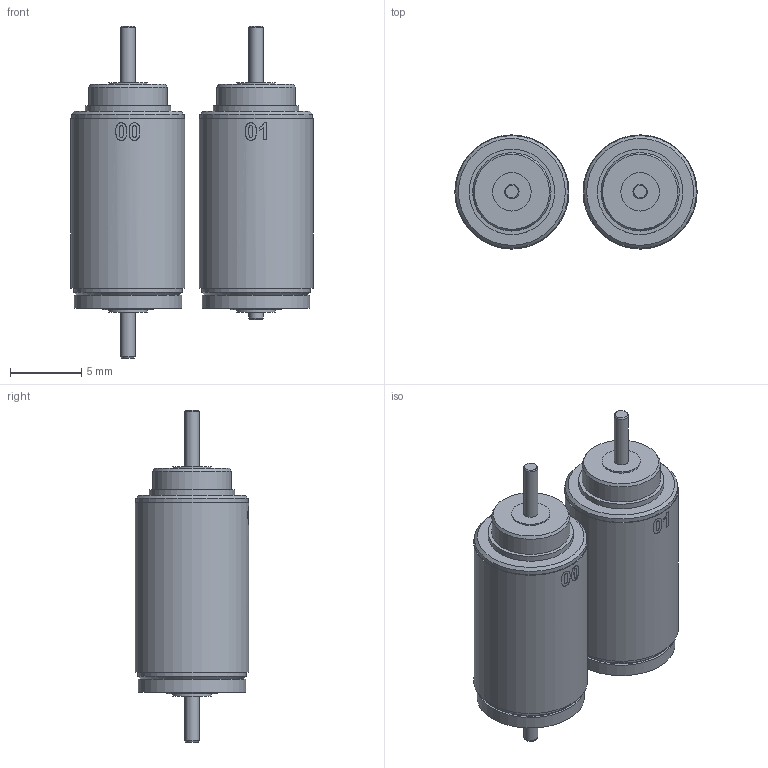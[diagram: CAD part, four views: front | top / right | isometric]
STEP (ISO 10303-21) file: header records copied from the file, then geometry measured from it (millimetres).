
FILE_DESCRIPTION(/* description */ (''),/* implementation_level */ '2;1');
FILE_NAME(/* name */ 'AM0820_00+01.stp',/* time_stamp */ '2020-09-03T10:05:52+02:00',/* author */ ('DR. FRITZ FAULHABER GmbH & Co. KG'),/* organization */ ('DR. FRITZ FAULHABER GmbH & Co. KG'),/* preprocessor_version */ 'ST-DEVELOPER v16.7',/* originating_system */ 'SIEMENS PLM Software NX 12.0',/* authorisation */ '');
FILE_SCHEMA (('AUTOMOTIVE_DESIGN { 1 0 10303 214 3 1 1 1 }'));
Length unit declared in the file: millimetre
Products named in the file (1): H99999999-A-Alle Motoren
Bounding box: 17 x 8 x 23.3 mm (x, y, z)
Volume: 1477.8 mm3; surface area: 1006.6 mm2
Topology: 2 solids, 2 shells, 234 faces, 551 edges, 366 vertices
Faces by surface type: plane 115, cylinder 77, extrusion 22, cone 12, bspline 8
Full cylindrical faces by diameter (mm): 1 x4, 2.7 x4, 4 x2, 5.5 x2, 6 x2, 7.55 x2, 7.6 x2, 7.9 x2, 8 x2
Entity records: 8530 total; most frequent: CARTESIAN_POINT 3290, ORIENTED_EDGE 1006, DIRECTION 916, EDGE_CURVE 503, AXIS2_PLACEMENT_3D 359, VERTEX_POINT 358, EDGE_LOOP 319, ADVANCED_FACE 234
